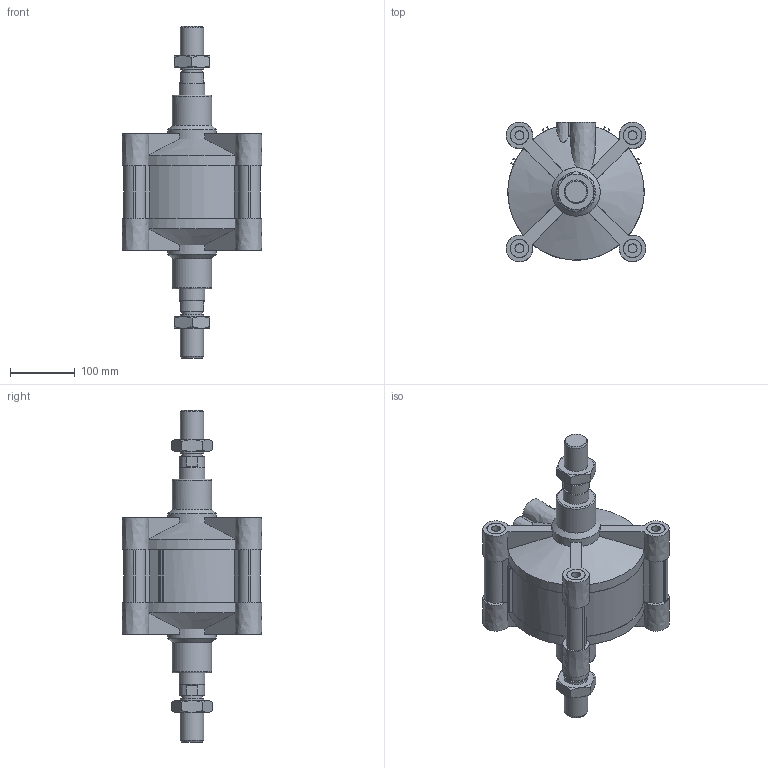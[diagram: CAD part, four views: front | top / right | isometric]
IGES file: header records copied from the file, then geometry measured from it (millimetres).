
Global section: file name: 139#_200_0000_02; native system: Autodesk Inventor 2014; preprocessor: unknown; author: F. Piloni; organization: Pneumax S.p.A.; date: 20151120.143135; units: millimetre
Bounding box: 216 x 216 x 514 mm (x, y, z)
Volume: 6471014.7 mm3; surface area: 680828.6 mm2
Topology: 6 solids, 6 shells, 324 faces, 844 edges, 567 vertices
Faces by surface type: bspline 324
